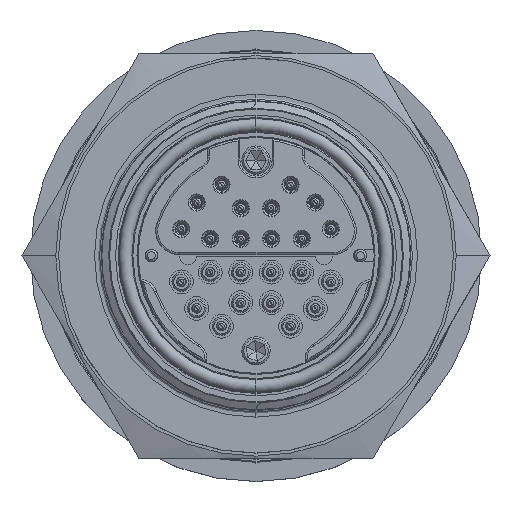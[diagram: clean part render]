
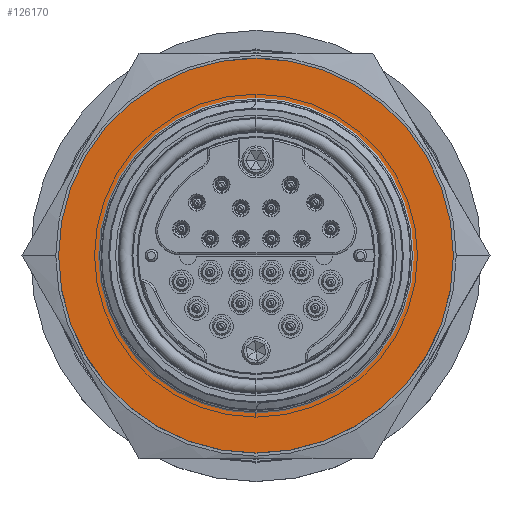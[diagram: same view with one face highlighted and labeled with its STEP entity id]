
A CAD part, top view. The second image highlights one B-rep face of the part: STEP entity #126170.
In plain terms, the highlighted planar face has unit normal (0, 0, 1).
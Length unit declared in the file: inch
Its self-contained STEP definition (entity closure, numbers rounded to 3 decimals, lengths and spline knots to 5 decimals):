
#1511 = CIRCLE ( 'NONE', #28685, 0.82 ) ;
#4897 = PLANE ( 'NONE',  #11326 ) ;
#9758 = VERTEX_POINT ( 'NONE', #54092 ) ;
#10865 = DIRECTION ( 'NONE',  ( 0., 0., 1. ) ) ;
#11326 = AXIS2_PLACEMENT_3D ( 'NONE', #56769, #160465, #137482 ) ;
#15946 = VERTEX_POINT ( 'NONE', #100743 ) ;
#21390 = DIRECTION ( 'NONE',  ( 0., 1., 0. ) ) ;
#25439 = CIRCLE ( 'NONE', #68773, 0.82 ) ;
#28685 = AXIS2_PLACEMENT_3D ( 'NONE', #57962, #109799, #21390 ) ;
#29176 = DIRECTION ( 'NONE',  ( 0., 1., 0. ) ) ;
#31913 = EDGE_CURVE ( 'NONE', #79454, #159793, #33719, .T. ) ;
#33719 = CIRCLE ( 'NONE', #66237, 1.035 ) ;
#34911 = EDGE_CURVE ( 'NONE', #9758, #15946, #25439, .T. ) ;
#42112 = ORIENTED_EDGE ( 'NONE', *, *, #43687, .F. ) ;
#42960 = ORIENTED_EDGE ( 'NONE', *, *, #31913, .T. ) ;
#43687 = EDGE_CURVE ( 'NONE', #15946, #9758, #1511, .T. ) ;
#49025 = DIRECTION ( 'NONE',  ( 0., 1., 0. ) ) ;
#54092 = CARTESIAN_POINT ( 'NONE',  ( 0., 0.82, -0.506 ) ) ;
#56769 = CARTESIAN_POINT ( 'NONE',  ( -1.035, 0., -0.506 ) ) ;
#57962 = CARTESIAN_POINT ( 'NONE',  ( 0., 0., -0.506 ) ) ;
#61730 = AXIS2_PLACEMENT_3D ( 'NONE', #92907, #145658, #29176 ) ;
#65457 = CARTESIAN_POINT ( 'NONE',  ( 0., -1.035, -0.506 ) ) ;
#66237 = AXIS2_PLACEMENT_3D ( 'NONE', #129011, #10865, #115407 ) ;
#68773 = AXIS2_PLACEMENT_3D ( 'NONE', #126411, #162986, #49025 ) ;
#72852 = ORIENTED_EDGE ( 'NONE', *, *, #34911, .F. ) ;
#79454 = VERTEX_POINT ( 'NONE', #65457 ) ;
#85563 = FACE_OUTER_BOUND ( 'NONE', #164152, .T. ) ;
#92907 = CARTESIAN_POINT ( 'NONE',  ( 0., 0., -0.506 ) ) ;
#96654 = FACE_BOUND ( 'NONE', #145402, .T. ) ;
#100743 = CARTESIAN_POINT ( 'NONE',  ( 0., -0.82, -0.506 ) ) ;
#101118 = CARTESIAN_POINT ( 'NONE',  ( 0., 1.035, -0.506 ) ) ;
#109799 = DIRECTION ( 'NONE',  ( 0., 0., 1. ) ) ;
#115407 = DIRECTION ( 'NONE',  ( 0., 1., 0. ) ) ;
#126170 = ADVANCED_FACE ( 'NONE', ( #96654, #85563 ), #4897, .F. ) ;
#126411 = CARTESIAN_POINT ( 'NONE',  ( 0., 0., -0.506 ) ) ;
#129011 = CARTESIAN_POINT ( 'NONE',  ( 0., 0., -0.506 ) ) ;
#137482 = DIRECTION ( 'NONE',  ( 0., -1., 0. ) ) ;
#140938 = ORIENTED_EDGE ( 'NONE', *, *, #160569, .T. ) ;
#145402 = EDGE_LOOP ( 'NONE', ( #72852, #42112 ) ) ;
#145658 = DIRECTION ( 'NONE',  ( 0., 0., 1. ) ) ;
#159393 = CIRCLE ( 'NONE', #61730, 1.035 ) ;
#159793 = VERTEX_POINT ( 'NONE', #101118 ) ;
#160465 = DIRECTION ( 'NONE',  ( 0., 0., -1. ) ) ;
#160569 = EDGE_CURVE ( 'NONE', #159793, #79454, #159393, .T. ) ;
#162986 = DIRECTION ( 'NONE',  ( 0., 0., 1. ) ) ;
#164152 = EDGE_LOOP ( 'NONE', ( #140938, #42960 ) ) ;
